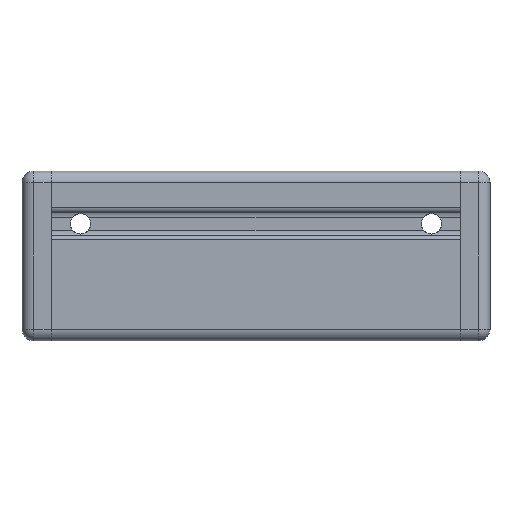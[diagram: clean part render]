
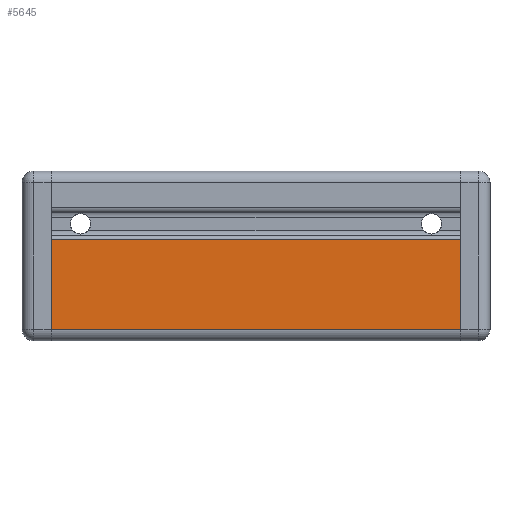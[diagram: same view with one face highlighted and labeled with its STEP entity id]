
A CAD part, front view. The second image highlights one B-rep face of the part: STEP entity #5645.
In plain terms, the highlighted planar face has unit normal (0, -1, 0).
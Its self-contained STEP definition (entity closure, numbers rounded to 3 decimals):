
#435 = EDGE_LOOP ( 'NONE', ( #10038, #10823, #6175, #3545 ) ) ;
#854 = DIRECTION ( 'NONE',  ( 0., -1., 0. ) ) ;
#1059 = EDGE_CURVE ( 'NONE', #1704, #3551, #5938, .T. ) ;
#1224 = VECTOR ( 'NONE', #7177, 1000. ) ;
#1235 = VECTOR ( 'NONE', #6377, 1000. ) ;
#1560 = CARTESIAN_POINT ( 'NONE',  ( 140., -33.467, 36.939 ) ) ;
#1704 = VERTEX_POINT ( 'NONE', #4235 ) ;
#1849 = VECTOR ( 'NONE', #4831, 1000. ) ;
#1868 = CARTESIAN_POINT ( 'NONE',  ( 0., -33.467, 33.798 ) ) ;
#2178 = CARTESIAN_POINT ( 'NONE',  ( 0., -33.467, 36.939 ) ) ;
#2562 = EDGE_CURVE ( 'NONE', #1704, #13117, #5969, .T. ) ;
#3545 = ORIENTED_EDGE ( 'NONE', *, *, #2562, .T. ) ;
#3551 = VERTEX_POINT ( 'NONE', #2178 ) ;
#3997 = LINE ( 'NONE', #6220, #1224 ) ;
#4235 = CARTESIAN_POINT ( 'NONE',  ( 0., -33.467, 6.439 ) ) ;
#4624 = LINE ( 'NONE', #10988, #1849 ) ;
#4831 = DIRECTION ( 'NONE',  ( 0., 0., 1. ) ) ;
#5639 = VECTOR ( 'NONE', #6053, 1000. ) ;
#5645 = ADVANCED_FACE ( 'NONE', ( #10927 ), #13244, .T. ) ;
#5938 = LINE ( 'NONE', #1868, #5639 ) ;
#5969 = LINE ( 'NONE', #7424, #1235 ) ;
#6053 = DIRECTION ( 'NONE',  ( 0., 0., 1. ) ) ;
#6175 = ORIENTED_EDGE ( 'NONE', *, *, #1059, .F. ) ;
#6220 = CARTESIAN_POINT ( 'NONE',  ( 0., -33.467, 36.939 ) ) ;
#6377 = DIRECTION ( 'NONE',  ( 1., 0., 0. ) ) ;
#6902 = EDGE_CURVE ( 'NONE', #3551, #8460, #3997, .T. ) ;
#7086 = CARTESIAN_POINT ( 'NONE',  ( 0., -33.467, 6.439 ) ) ;
#7174 = AXIS2_PLACEMENT_3D ( 'NONE', #7086, #854, #8127 ) ;
#7177 = DIRECTION ( 'NONE',  ( 1., 0., 0. ) ) ;
#7214 = CARTESIAN_POINT ( 'NONE',  ( 140., -33.467, 6.439 ) ) ;
#7424 = CARTESIAN_POINT ( 'NONE',  ( 0., -33.467, 6.439 ) ) ;
#8127 = DIRECTION ( 'NONE',  ( 0., 0., -1. ) ) ;
#8460 = VERTEX_POINT ( 'NONE', #1560 ) ;
#8559 = EDGE_CURVE ( 'NONE', #13117, #8460, #4624, .T. ) ;
#10038 = ORIENTED_EDGE ( 'NONE', *, *, #8559, .T. ) ;
#10823 = ORIENTED_EDGE ( 'NONE', *, *, #6902, .F. ) ;
#10927 = FACE_OUTER_BOUND ( 'NONE', #435, .T. ) ;
#10988 = CARTESIAN_POINT ( 'NONE',  ( 140., -33.467, 32.63 ) ) ;
#13117 = VERTEX_POINT ( 'NONE', #7214 ) ;
#13244 = PLANE ( 'NONE',  #7174 ) ;
